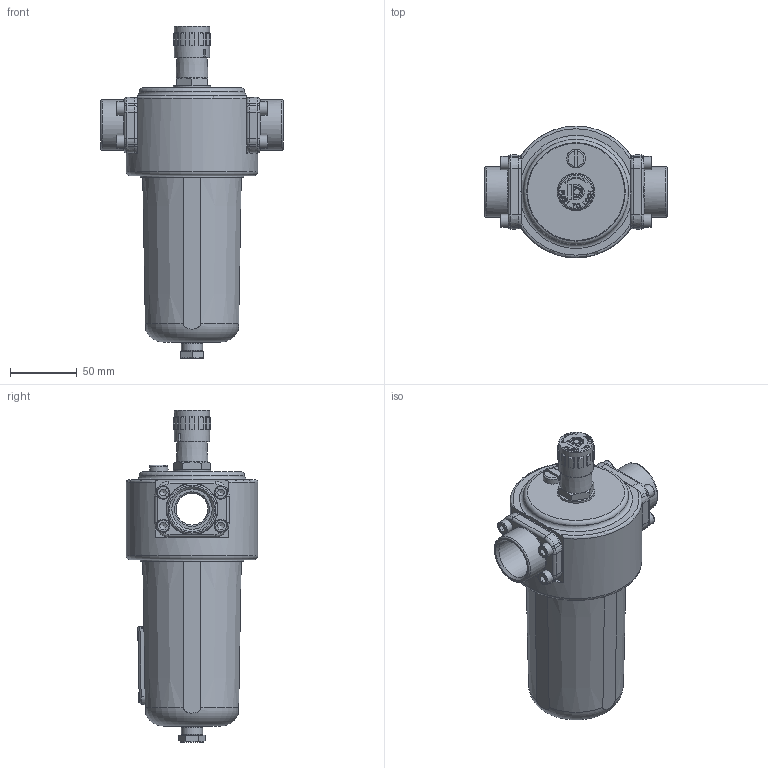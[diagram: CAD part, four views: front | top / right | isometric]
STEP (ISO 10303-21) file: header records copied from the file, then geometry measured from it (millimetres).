
FILE_DESCRIPTION(/* description */ (''),/* implementation_level */ '2;1');
FILE_NAME(/* name */ 'U:/AirCom-Produktdokumentation/Oeler/LD/Zeichnungen/CAD-Aircom/3D/B-LD-08x_02.step',/* time_stamp */ '2022-08-08T15:02:31+02:00',/* author */ (''),/* organization */ (''),/* preprocessor_version */ 'ST-DEVELOPER v19',/* originating_system */ 'Autodesk Translation Framework v11.7.0.108',/* authorisation */ '');
FILE_SCHEMA (('AUTOMOTIVE_DESIGN { 1 0 10303 214 3 1 1 }'));
Length unit declared in the file: millimetre
Products named in the file (23): C87002; P53003; OR 02014; P53003_1; P30017; C60002; P60001; P60002; M51201; P60009; P40015; OR 04159; OR 04159_1; OR 07075; OR 07063; OR 07032_2; P20606; P50010; P34120; 0DC10410; P34131; OR 08022; P37083
Assembly tree (32 placements, depth 3):
  C87002
    P53003
    OR 02014  x2
    P53003_1
    P30017
    C60002
      P60001
      P60002
    M51201
      P60009
      P40015
    OR 04159
    OR 04159_1
    OR 07075  x2
    OR 07063
    OR 07032_2
    P20606
    P50010
    P34120
    0DC10410  x8
    P34131
    OR 08022
    P37083  x2
Bounding box: 137 x 99 x 249.5 mm (x, y, z)
Volume: 288087.1 mm3; surface area: 155288.4 mm2
Topology: 31 solids, 31 shells, 1033 faces, 2686 edges, 1736 vertices
Faces by surface type: plane 488, cylinder 232, cone 130, torus 118, bspline 65
Full cylindrical faces by diameter (mm): 1 x2, 1.5 x4, 3 x1, 3.5 x1, 4.134 x2, 4.8 x1, 4.917 x8, 5 x4, 5.1 x3, 6 x8, 6.5 x8, 6.9 x2, 7 x2, 7.5 x2, 7.7 x2, 8 x2, 8.566 x1, 10 x8, 10.8 x2, 12 x1, 14 x1, 14.4 x1, 16 x1, 20 x2, 21 x2, 21.9 x1, 22.4 x1, 23.4 x1, 24 x2, 25.6 x1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
Entity records: 30599 total; most frequent: CARTESIAN_POINT 8961, ORIENTED_EDGE 4472, DIRECTION 4296, EDGE_CURVE 2236, AXIS2_PLACEMENT_3D 1617, VERTEX_POINT 1458, LINE 1062, VECTOR 1062
